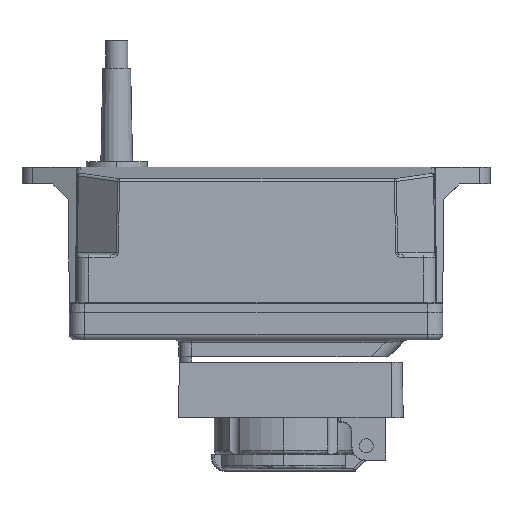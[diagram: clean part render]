
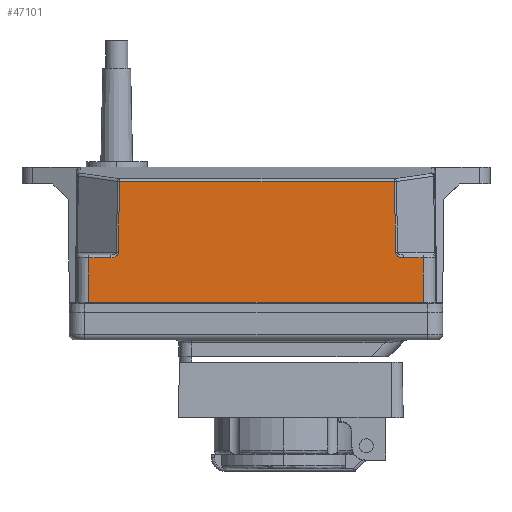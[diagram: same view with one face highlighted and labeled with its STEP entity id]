
A CAD part, left-side view. The second image highlights one B-rep face of the part: STEP entity #47101.
In plain terms, the highlighted planar face has unit normal (-1, 0, 0.009).
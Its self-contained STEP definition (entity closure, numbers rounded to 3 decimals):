
#481 = VERTEX_POINT ( 'NONE', #33834 ) ;
#1744 = DIRECTION ( 'NONE',  ( -1., 0., 0.009 ) ) ;
#2500 = FACE_OUTER_BOUND ( 'NONE', #6051, .T. ) ;
#3070 = VECTOR ( 'NONE', #49069, 1000. ) ;
#3547 = VECTOR ( 'NONE', #35182, 1000. ) ;
#4494 = ORIENTED_EDGE ( 'NONE', *, *, #13951, .F. ) ;
#4582 = ORIENTED_EDGE ( 'NONE', *, *, #27685, .F. ) ;
#4834 = EDGE_CURVE ( 'NONE', #23350, #26851, #24078, .T. ) ;
#6051 = EDGE_LOOP ( 'NONE', ( #4494, #10806, #33376, #12329, #22813, #10434, #12520, #21924, #4582, #10756 ) ) ;
#7102 = VERTEX_POINT ( 'NONE', #35461 ) ;
#7423 = CARTESIAN_POINT ( 'NONE',  ( -43.349, 49.427, 20.319 ) ) ;
#7850 = VERTEX_POINT ( 'NONE', #9432 ) ;
#8990 = EDGE_CURVE ( 'NONE', #481, #43827, #22007, .T. ) ;
#9069 = VERTEX_POINT ( 'NONE', #30564 ) ;
#9432 = CARTESIAN_POINT ( 'NONE',  ( -43.356, -52.926, 19.509 ) ) ;
#10434 = ORIENTED_EDGE ( 'NONE', *, *, #12431, .T. ) ;
#10458 = DIRECTION ( 'NONE',  ( 0.009, 0., 1. ) ) ;
#10756 = ORIENTED_EDGE ( 'NONE', *, *, #4834, .T. ) ;
#10806 = ORIENTED_EDGE ( 'NONE', *, *, #28559, .T. ) ;
#12160 = CARTESIAN_POINT ( 'NONE',  ( -43.356, 60., 19.509 ) ) ;
#12216 = EDGE_CURVE ( 'NONE', #45338, #22011, #15948, .T. ) ;
#12329 = ORIENTED_EDGE ( 'NONE', *, *, #29443, .T. ) ;
#12431 = EDGE_CURVE ( 'NONE', #22211, #481, #32819, .T. ) ;
#12520 = ORIENTED_EDGE ( 'NONE', *, *, #8990, .T. ) ;
#13376 = CARTESIAN_POINT ( 'NONE',  ( -43.11, -49.696, 47.741 ) ) ;
#13951 = EDGE_CURVE ( 'NONE', #9069, #26851, #32955, .T. ) ;
#15253 = LINE ( 'NONE', #30647, #36460 ) ;
#15777 = CARTESIAN_POINT ( 'NONE',  ( -43.356, 61.5, 19.509 ) ) ;
#15948 = LINE ( 'NONE', #39443, #40958 ) ;
#19508 = CARTESIAN_POINT ( 'NONE',  ( -43.347, 49.424, 20.493 ) ) ;
#19745 = LINE ( 'NONE', #19508, #3547 ) ;
#20455 = DIRECTION ( 'NONE',  ( 0.009, 0., 1. ) ) ;
#21091 = AXIS2_PLACEMENT_3D ( 'NONE', #36087, #1744, #21424 ) ;
#21424 = DIRECTION ( 'NONE',  ( 0.009, 0., 1. ) ) ;
#21924 = ORIENTED_EDGE ( 'NONE', *, *, #48818, .T. ) ;
#22007 = LINE ( 'NONE', #40215, #42124 ) ;
#22011 = VERTEX_POINT ( 'NONE', #31476 ) ;
#22211 = VERTEX_POINT ( 'NONE', #42858 ) ;
#22813 = ORIENTED_EDGE ( 'NONE', *, *, #41623, .F. ) ;
#23350 = VERTEX_POINT ( 'NONE', #45644 ) ;
#23560 = CARTESIAN_POINT ( 'NONE',  ( -43.356, -52.926, 19.509 ) ) ;
#23957 = VECTOR ( 'NONE', #36731, 1000. ) ;
#24078 = LINE ( 'NONE', #15777, #25825 ) ;
#25825 = VECTOR ( 'NONE', #42868, 1000. ) ;
#26851 = VERTEX_POINT ( 'NONE', #12160 ) ;
#27287 = VECTOR ( 'NONE', #10458, 1000. ) ;
#27685 = EDGE_CURVE ( 'NONE', #23350, #7102, #33550, .T. ) ;
#28559 = EDGE_CURVE ( 'NONE', #9069, #45338, #28629, .T. ) ;
#28629 = LINE ( 'NONE', #43614, #23957 ) ;
#28910 = CARTESIAN_POINT ( 'NONE',  ( -43.5, 60., 3. ) ) ;
#29443 = EDGE_CURVE ( 'NONE', #22011, #7850, #15253, .T. ) ;
#29917 = CARTESIAN_POINT ( 'NONE',  ( -43.356, -51.292, 19.509 ) ) ;
#30564 = CARTESIAN_POINT ( 'NONE',  ( -43.496, 60., 3.496 ) ) ;
#30647 = CARTESIAN_POINT ( 'NONE',  ( -43.356, -50.545, 19.509 ) ) ;
#31476 = CARTESIAN_POINT ( 'NONE',  ( -43.356, -60., 19.509 ) ) ;
#32819 = LINE ( 'NONE', #13376, #3070 ) ;
#32955 = LINE ( 'NONE', #28910, #27287 ) ;
#33376 = ORIENTED_EDGE ( 'NONE', *, *, #12216, .T. ) ;
#33550 =( BOUNDED_CURVE ( )  B_SPLINE_CURVE ( 3, ( #46166, #45907, #7423, #38534 ),
 .UNSPECIFIED., .F., .T. ) 
 B_SPLINE_CURVE_WITH_KNOTS ( ( 4, 4 ),
 ( 4.725, 6.278 ),
 .UNSPECIFIED. ) 
 CURVE ( )  GEOMETRIC_REPRESENTATION_ITEM ( )  RATIONAL_B_SPLINE_CURVE ( ( 1., 0.809, 0.809, 1. ) ) 
 REPRESENTATION_ITEM ( '' )  );
#33716 = CARTESIAN_POINT ( 'NONE',  ( -43.339, -50.115, 21.474 ) ) ;
#33834 = CARTESIAN_POINT ( 'NONE',  ( -43.117, -49.71, 46.886 ) ) ;
#34848 = CARTESIAN_POINT ( 'NONE',  ( -43.117, 49.003, 46.886 ) ) ;
#35182 = DIRECTION ( 'NONE',  ( -0.009, 0.016, -1. ) ) ;
#35461 = CARTESIAN_POINT ( 'NONE',  ( -43.339, 49.408, 21.474 ) ) ;
#36087 = CARTESIAN_POINT ( 'NONE',  ( -43.5, 61.5, 3. ) ) ;
#36460 = VECTOR ( 'NONE', #41579, 1000. ) ;
#36731 = DIRECTION ( 'NONE',  ( 0., -1., 0. ) ) ;
#38534 = CARTESIAN_POINT ( 'NONE',  ( -43.339, 49.408, 21.474 ) ) ;
#39443 = CARTESIAN_POINT ( 'NONE',  ( -43.5, -60., 3. ) ) ;
#39895 = PLANE ( 'NONE',  #21091 ) ;
#40215 = CARTESIAN_POINT ( 'NONE',  ( -43.117, 49.403, 46.886 ) ) ;
#40958 = VECTOR ( 'NONE', #20455, 1000. ) ;
#41579 = DIRECTION ( 'NONE',  ( 0., 1., 0. ) ) ;
#41623 = EDGE_CURVE ( 'NONE', #22211, #7850, #42004, .T. ) ;
#42004 =( BOUNDED_CURVE ( )  B_SPLINE_CURVE ( 3, ( #33716, #49206, #29917, #23560 ),
 .UNSPECIFIED., .F., .T. ) 
 B_SPLINE_CURVE_WITH_KNOTS ( ( 4, 4 ),
 ( 0.005, 1.558 ),
 .UNSPECIFIED. ) 
 CURVE ( )  GEOMETRIC_REPRESENTATION_ITEM ( )  RATIONAL_B_SPLINE_CURVE ( ( 1., 0.809, 0.809, 1. ) ) 
 REPRESENTATION_ITEM ( '' )  );
#42124 = VECTOR ( 'NONE', #48617, 1000. ) ;
#42858 = CARTESIAN_POINT ( 'NONE',  ( -43.339, -50.115, 21.474 ) ) ;
#42868 = DIRECTION ( 'NONE',  ( 0., 1., 0. ) ) ;
#43614 = CARTESIAN_POINT ( 'NONE',  ( -43.496, -60., 3.496 ) ) ;
#43827 = VERTEX_POINT ( 'NONE', #34848 ) ;
#45338 = VERTEX_POINT ( 'NONE', #49556 ) ;
#45644 = CARTESIAN_POINT ( 'NONE',  ( -43.356, 52.219, 19.509 ) ) ;
#45907 = CARTESIAN_POINT ( 'NONE',  ( -43.356, 50.585, 19.509 ) ) ;
#46166 = CARTESIAN_POINT ( 'NONE',  ( -43.356, 52.219, 19.509 ) ) ;
#47101 = ADVANCED_FACE ( 'NONE', ( #2500 ), #39895, .T. ) ;
#48617 = DIRECTION ( 'NONE',  ( 0., 1., 0. ) ) ;
#48818 = EDGE_CURVE ( 'NONE', #43827, #7102, #19745, .T. ) ;
#49069 = DIRECTION ( 'NONE',  ( 0.009, 0.016, 1. ) ) ;
#49206 = CARTESIAN_POINT ( 'NONE',  ( -43.349, -50.134, 20.319 ) ) ;
#49556 = CARTESIAN_POINT ( 'NONE',  ( -43.496, -60., 3.496 ) ) ;
